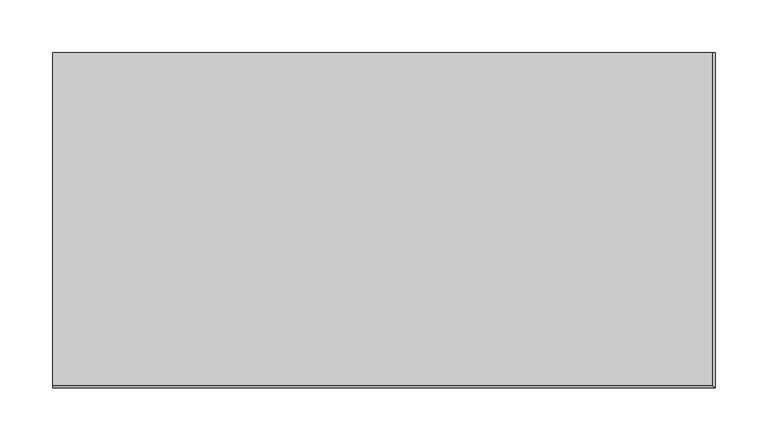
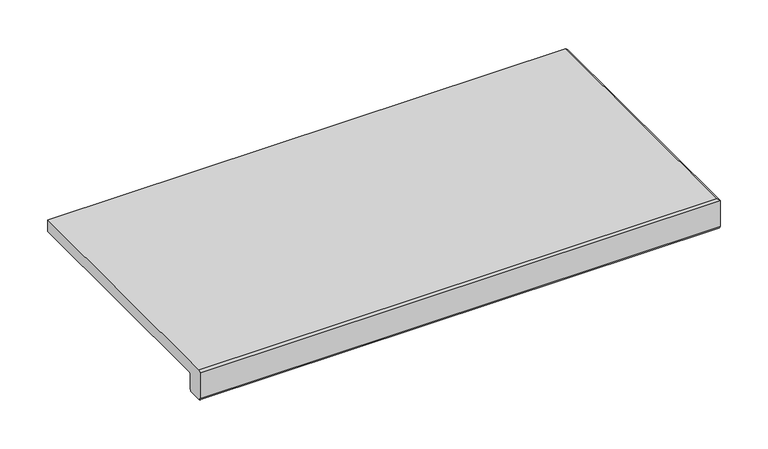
"""IFC4 building model written with IfcOpenShell, lengths in millimetres: proxy geometry, ROSA GRES_ED6 (largo y profundidad) : Pieza ED6_Tao_Beige_Anti-Slip."""

from ifc_helpers import new_model, si_unit, frame, origin, place, context, project, spatial, polyline, circle_curve, ellipse_curve, source, transform, mapped, element, save
from ifc_brep_helpers import plane_surface, cylinder_surface, revolved_surface, advanced_brep


def generic_models_1c02ff2d(model_context):
    return source(origin(), model_context, "Body", "AdvancedBrep", [
        advanced_brep(
        [(0.0, 317.0, -35.5), (-2.5, 317.0, -38.0), (-17.5, 317.0, -38.0), (-20.0, 317.0, -35.5), (-20.0, 317.0, -17.2964749), (-22.5, 317.0, -14.7964749), (-626.0, 317.0, -14.7964749), (-626.0, 317.0, 0.0), (-2.5, 317.0, 0.0), (0.0, 317.0, -2.5), (-626.0, 0.0, -35.5), (-626.0, 0.0, -2.5), (-626.0, 2.5, 0.0), (-626.0, 22.5, -14.7964749), (-626.0, 20.0, -17.2964749), (-626.0, 20.0, -35.5), (-626.0, 17.5, -38.0), (-626.0, 2.5, -38.0), (-22.5, 22.5, -14.7964749), (0.0, 0.0, -35.5), (-2.5, 2.5, -38.0), (-17.5, 17.5, -38.0), (-20.0, 20.0, -35.5), (-20.0, 20.0, -17.2964749), (-2.5, 2.5, 0.0), (0.0, 0.0, -2.5)],
        [
            (0, 1, circle_curve(frame((-2.5, 317.0, -35.5), z_axis=(0.0, 1.0, 0.0), x_axis=(1.0, 0.0, 0.0)), 2.5)),
            (1, 2),
            (2, 3, circle_curve(frame((-17.5, 317.0, -35.5), z_axis=(0.0, 1.0, 0.0), x_axis=(1.0, 0.0, 0.0)), 2.5)),
            (3, 4),
            (4, 5, circle_curve(frame((-22.5, 317.0, -17.2964749), z_axis=(0.0, -1.0, 0.0), x_axis=(1.0, 0.0, 0.0)), 2.5)),
            (5, 6),
            (6, 7),
            (7, 8),
            (8, 9),
            (9, 0),
            (10, 11),
            (11, 12),
            (12, 7),
            (6, 13),
            (13, 14, circle_curve(frame((-626.0, 22.5, -17.2964749), z_axis=(1.0, 0.0, 0.0), x_axis=(0.0, -1.0, 0.0)), 2.5)),
            (14, 15),
            (15, 16, circle_curve(frame((-626.0, 17.5, -35.5), z_axis=(-1.0, 0.0, 0.0), x_axis=(0.0, -1.0, 0.0)), 2.5)),
            (16, 17),
            (17, 10, circle_curve(frame((-626.0, 2.5, -35.5), z_axis=(-1.0, 0.0, 0.0), x_axis=(0.0, -1.0, 0.0)), 2.5)),
            (5, 18),
            (18, 13),
            (0, 19),
            (19, 20, ellipse_curve(frame((-2.5, 2.5, -35.5), z_axis=(0.7071067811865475, 0.7071067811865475, 0.0), x_axis=(-0.7071067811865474, 0.7071067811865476, 0.0)), 3.5355339, 2.5)),
            (20, 1),
            (20, 17),
            (16, 21),
            (21, 2),
            (21, 22, ellipse_curve(frame((-17.5, 17.5, -35.5), z_axis=(0.7071067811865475, 0.7071067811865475, 0.0), x_axis=(-0.7071067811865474, 0.7071067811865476, 0.0)), 3.5355339, 2.5)),
            (22, 3),
            (22, 23),
            (23, 4),
            (23, 18, ellipse_curve(frame((-22.5, 22.5, -17.2964749), z_axis=(-0.7071067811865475, -0.7071067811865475, 0.0), x_axis=(0.7071067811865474, -0.7071067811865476, 0.0)), 3.5355339, 2.5)),
            (12, 24),
            (24, 8),
            (24, 25),
            (25, 9),
            (25, 19),
            (19, 10),
            (15, 22),
            (14, 23),
            (11, 25),
        ],
        [
            plane_surface(frame((0.0, 317.0, 0.0), z_axis=(0.0, 1.0, 0.0), x_axis=(0.0, 0.0, 1.0))),
            plane_surface(frame((-626.0, 0.0, 0.0), z_axis=(-1.0, 0.0, 0.0), x_axis=(0.0, 0.0, 1.0))),
            plane_surface(frame((-626.0, -294.5, -14.7964749), z_axis=(0.0, 0.0, -1.0), x_axis=(0.0, 1.0, 0.0))),
            cylinder_surface(frame((-2.5, 317.0, -35.5), z_axis=(0.0, 1.0, 0.0), x_axis=(1.0, 0.0, 0.0)), 2.5),
            plane_surface(frame((-2.5, 317.0, -38.0), z_axis=(0.0, 0.0, -1.0), x_axis=(0.0, -1.0, 0.0))),
            cylinder_surface(frame((-17.5, 317.0, -35.5), z_axis=(0.0, 1.0, 0.0), x_axis=(1.0, 0.0, 0.0)), 2.5),
            plane_surface(frame((-20.0, 317.0, -35.5), z_axis=(-1.0, 0.0, 0.0), x_axis=(0.0, -1.0, 0.0))),
            revolved_surface(polyline([(-20.0, 20.0, -17.2964749), (-20.0, 317.0, -17.2964749)]), (-22.5, 317.0, -17.2964749), (0.0, -1.0, 0.0)),
            plane_surface(frame((-22.5, 317.0, 0.0), z_axis=(0.0, 0.0, 1.0), x_axis=(0.0, -1.0, 0.0))),
            plane_surface(frame((-2.5, 317.0, 0.0), z_axis=(0.7071067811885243, 0.0, 0.7071067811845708), x_axis=(0.0, -1.0, 0.0))),
            plane_surface(frame((0.0, 317.0, -2.5), z_axis=(1.0, 0.0, 0.0), x_axis=(0.0, -1.0, 0.0))),
            cylinder_surface(frame((0.0, 2.5, -35.5), z_axis=(1.0, 0.0, 0.0), x_axis=(0.0, -1.0, 0.0)), 2.5),
            cylinder_surface(frame((0.0, 17.5, -35.5), z_axis=(1.0, 0.0, 0.0), x_axis=(0.0, -1.0, 0.0)), 2.5),
            plane_surface(frame((-20.0, 20.0, -35.5), z_axis=(0.0, 1.0, 0.0), x_axis=(-1.0, 0.0, 0.0))),
            revolved_surface(polyline([(-626.0, 20.0, -17.2964749), (-20.0, 20.0, -17.2964749)]), (0.0, 22.5, -17.2964749), (-1.0, 0.0, 0.0)),
            plane_surface(frame((-2.5, 2.5, 0.0), z_axis=(0.0, -0.7071067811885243, 0.7071067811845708), x_axis=(-1.0, 0.0, 0.0))),
            plane_surface(frame((0.0, 0.0, -2.5), z_axis=(0.0, -1.0, 0.0), x_axis=(-1.0, 0.0, 0.0))),
        ],
        [
            (0, [[1, 2, 3, 4, 5, 6, 7, 8, 9, 10]]),
            (1, [[11, 12, 13, -7, 14, 15, 16, 17, 18, 19]]),
            (2, [[-6, 20, 21, -14]]),
            (3, [[-1, 22, 23, 24]]),
            (4, [[-2, -24, 25, -18, 26, 27]]),
            (5, [[-3, -27, 28, 29]]),
            (6, [[-4, -29, 30, 31]]),
            (7, [[-5, -31, 32, -20]]),
            (8, [[-8, -13, 33, 34]]),
            (9, [[-9, -34, 35, 36]]),
            (10, [[-10, -36, 37, -22]]),
            (11, [[-19, -25, -23, 38]]),
            (12, [[-17, 39, -28, -26]]),
            (13, [[-16, 40, -30, -39]]),
            (14, [[-15, -21, -32, -40]]),
            (15, [[-12, 41, -35, -33]]),
            (16, [[-11, -38, -37, -41]]),
        ],
    ),
    ])


if __name__ == "__main__":
    model = new_model("IFC4")
    model_context = context("Model", 3, world=origin())
    ifc_project = project(units=[si_unit("LENGTHUNIT", "METRE", prefix="MILLI")], contexts=[model_context])
    site = spatial("IfcSite", under=ifc_project)
    building = spatial("IfcBuilding", under=site)
    placement = place(None, origin())
    generic_models_shape = generic_models_1c02ff2d(model_context)
    element("IfcBuildingElementProxy", 1, Name="ROSA GRES_ED6 (largo y profundidad) : Pieza ED6_Tao_Beige_Anti-Slip", ObjectType="ROSA GRES_ED6 (largo y profundidad) : Pieza ED6_Tao_Beige_Anti-Slip", at=placement, inside=building, context=model_context, shape_type="MappedRepresentation", body=[
        mapped(generic_models_shape, transform((0.0, 0.0, 0.0), x_axis=(1.0, 0.0, 0.0), y_axis=(0.0, 1.0, 0.0), z_axis=(0.0, 0.0, 1.0))),
    ])
    save(model, "model.ifc")
